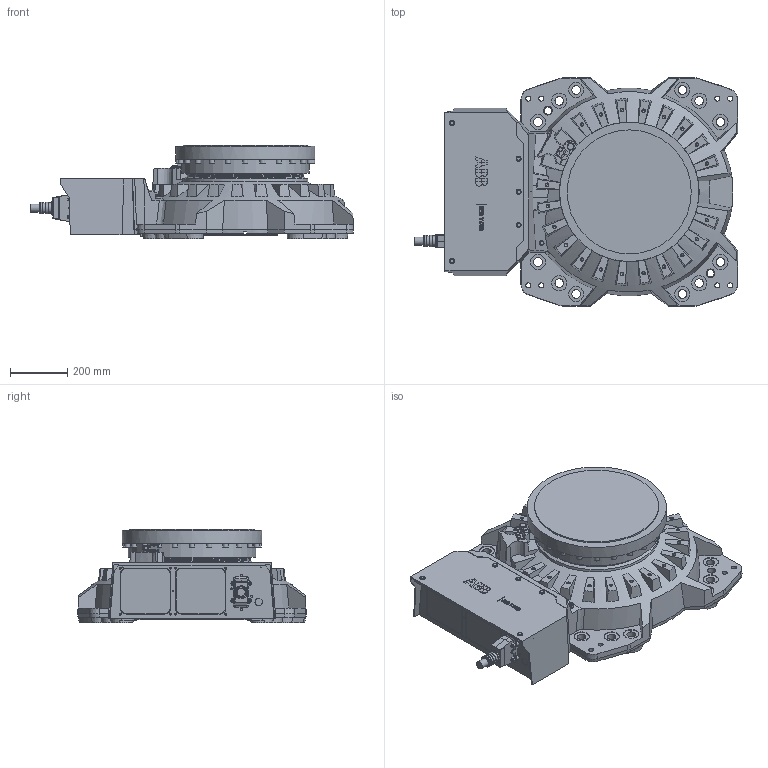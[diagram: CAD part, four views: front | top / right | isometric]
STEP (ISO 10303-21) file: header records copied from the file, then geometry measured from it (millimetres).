
FILE_DESCRIPTION (( 'STEP AP214' ), '1' );
FILE_NAME ('IRB7720_All_OC_00_BASE_CAD.step', '2026-01-28T13:12:40', ( '' ), ( '' ), 'SwSTEP 2.0', 'SolidWorks 2024', '' );
FILE_SCHEMA (( 'AUTOMOTIVE_DESIGN' ));
Length unit declared in the file: millimetre
Products named in the file (1): IRB7720_All_OC_00_BASE_CAD
Bounding box: 1124.5 x 795 x 327 mm (x, y, z)
Volume: 112947195.7 mm3; surface area: 2943697.7 mm2
Topology: 1 solids, 1 shells, 1134 faces, 2816 edges, 1832 vertices
Faces by surface type: plane 673, cylinder 229, cone 185, bspline 39, sphere 4, torus 4
Full cylindrical faces by diameter (mm): 5.2 x4, 5.45 x1, 6 x2, 6.6 x4, 6.8 x8, 10 x4, 10.2 x20, 11.05 x2, 12 x8, 17 x1, 17.5 x8, 17.7 x1, 18.3 x24, 19.7 x2, 20 x1, 23 x1, 25 x1, 28 x1, 30 x14, 36 x3, 40 x4, 45 x5, 53 x12, 404 x1, 406 x1, 431.5 x1, 444 x1, 485 x1
Entity records: 47508 total; most frequent: CARTESIAN_POINT 9582, ORIENTED_EDGE 5048, DIRECTION 5046, EDGE_CURVE 2524, AXIS2_PLACEMENT_3D 1817, VERTEX_POINT 1752, EDGE_LOOP 1538, VECTOR 1412
